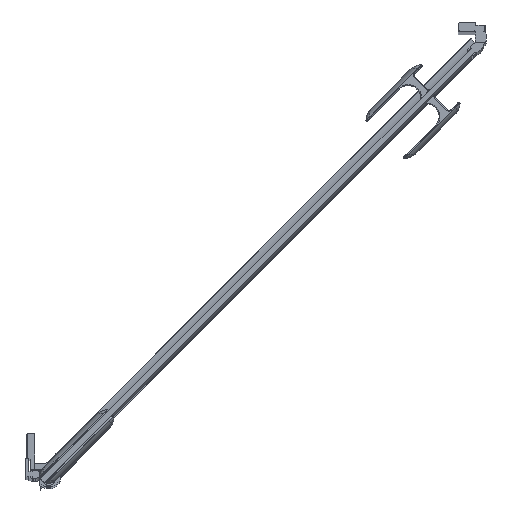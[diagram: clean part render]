
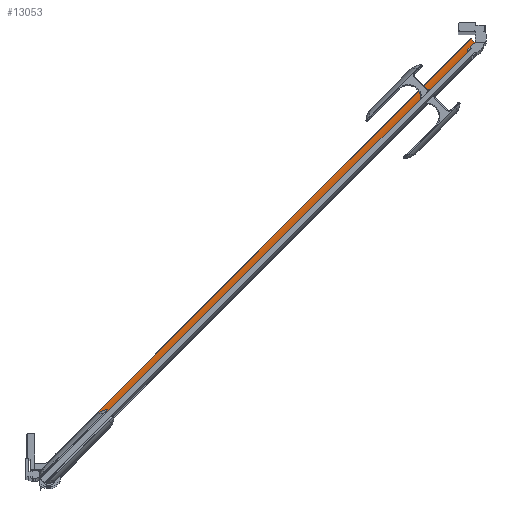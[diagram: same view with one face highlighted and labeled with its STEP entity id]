
A CAD part, top view. The second image highlights one B-rep face of the part: STEP entity #13053.
In plain terms, the highlighted cylindrical face has radius 16 mm (diameter 32 mm), a partial arc.
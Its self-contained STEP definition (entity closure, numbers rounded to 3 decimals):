
#58=B_SPLINE_CURVE_WITH_KNOTS($,3,(#20912,#20913,#20914,#20915,#20916,#20917),
 .UNSPECIFIED.,.F.,.F.,(4,2,4),(0.968,0.988,1.021),
 .UNSPECIFIED.);
#59=B_SPLINE_CURVE_WITH_KNOTS($,3,(#20992,#20993,#20994,#20995,#20996,#20997),
 .UNSPECIFIED.,.F.,.F.,(4,2,4),(1.137,1.304,1.39),
 .UNSPECIFIED.);
#62=B_SPLINE_CURVE_WITH_KNOTS($,3,(#21206,#21207,#21208,#21209,#21210,#21211,
#21212,#21213,#21214,#21215,#21216,#21217,#21218,#21219),.UNSPECIFIED.,
 .F.,.F.,(4,2,2,2,2,2,4),(-1.04,-0.923,-0.745,
-0.555,-0.364,-0.182,-0.021),
 .UNSPECIFIED.);
#396=CYLINDRICAL_SURFACE($,#14012,16.);
#1533=LINE($,#21293,#2831);
#1534=LINE($,#21297,#2832);
#1535=LINE($,#21299,#2833);
#1536=LINE($,#21301,#2834);
#1537=LINE($,#21302,#2835);
#2831=VECTOR($,#16895,687.884);
#2832=VECTOR($,#16898,681.289);
#2833=VECTOR($,#16899,1.691);
#2834=VECTOR($,#16900,3.774);
#2835=VECTOR($,#16901,3.251);
#3941=FACE_OUTER_BOUND($,#4655,.T.);
#4655=EDGE_LOOP($,(#10828,#10829,#10830,#10831,#10832,#10833,#10834,#10835,
#10836,#10837));
#5087=CIRCLE($,#13958,16.);
#5110=CIRCLE($,#14013,16.);
#6050=VERTEX_POINT($,#20910);
#6051=VERTEX_POINT($,#20911);
#6075=VERTEX_POINT($,#20991);
#6099=VERTEX_POINT($,#21075);
#6147=VERTEX_POINT($,#21203);
#6148=VERTEX_POINT($,#21205);
#6159=VERTEX_POINT($,#21294);
#6160=VERTEX_POINT($,#21296);
#6161=VERTEX_POINT($,#21298);
#6162=VERTEX_POINT($,#21300);
#7622=EDGE_CURVE($,#6050,#6051,#58,.T.);
#7660=EDGE_CURVE($,#6051,#6075,#59,.T.);
#7693=EDGE_CURVE($,#6075,#6099,#5087,.T.);
#7757=EDGE_CURVE($,#6148,#6147,#62,.T.);
#7783=EDGE_CURVE($,#6148,#6099,#1533,.T.);
#7784=EDGE_CURVE($,#6147,#6159,#5110,.T.);
#7785=EDGE_CURVE($,#6159,#6160,#1534,.T.);
#7786=EDGE_CURVE($,#6160,#6161,#1535,.T.);
#7787=EDGE_CURVE($,#6161,#6162,#1536,.T.);
#7788=EDGE_CURVE($,#6162,#6050,#1537,.T.);
#10828=ORIENTED_EDGE($,*,*,#7660,.T.);
#10829=ORIENTED_EDGE($,*,*,#7693,.T.);
#10830=ORIENTED_EDGE($,*,*,#7783,.F.);
#10831=ORIENTED_EDGE($,*,*,#7757,.T.);
#10832=ORIENTED_EDGE($,*,*,#7784,.T.);
#10833=ORIENTED_EDGE($,*,*,#7785,.T.);
#10834=ORIENTED_EDGE($,*,*,#7786,.T.);
#10835=ORIENTED_EDGE($,*,*,#7787,.T.);
#10836=ORIENTED_EDGE($,*,*,#7788,.T.);
#10837=ORIENTED_EDGE($,*,*,#7622,.T.);
#13053=ADVANCED_FACE($,(#3941),#396,.F.);
#13958=AXIS2_PLACEMENT_3D($,#21077,#16720,#16721);
#14012=AXIS2_PLACEMENT_3D($,#21292,#16893,#16894);
#14013=AXIS2_PLACEMENT_3D($,#21295,#16896,#16897);
#16720=DIRECTION('center_axis',(0.707,0.707,0.));
#16721=DIRECTION('ref_axis',(-0.528,0.528,0.665));
#16893=DIRECTION('center_axis',(0.707,0.707,0.));
#16894=DIRECTION('ref_axis',(-0.528,0.528,0.665));
#16895=DIRECTION($,(0.707,0.707,0.));
#16896=DIRECTION('center_axis',(-0.707,-0.707,0.));
#16897=DIRECTION('ref_axis',(-0.528,0.528,0.665));
#16898=DIRECTION($,(0.707,0.707,0.));
#16899=DIRECTION($,(0.707,0.707,0.));
#16900=DIRECTION($,(0.707,0.707,0.));
#16901=DIRECTION($,(0.707,0.707,0.));
#20910=CARTESIAN_POINT('',(1320.673,373.816,-395.056));
#20911=CARTESIAN_POINT('',(1320.524,374.187,-395.455));
#20912=CARTESIAN_POINT('Ctrl Pts',(1320.673,373.816,-395.056));
#20913=CARTESIAN_POINT('Ctrl Pts',(1320.649,373.858,-395.109));
#20914=CARTESIAN_POINT('Ctrl Pts',(1320.626,373.903,-395.162));
#20915=CARTESIAN_POINT('Ctrl Pts',(1320.572,374.024,-395.297));
#20916=CARTESIAN_POINT('Ctrl Pts',(1320.545,374.104,-395.378));
#20917=CARTESIAN_POINT('Ctrl Pts',(1320.524,374.187,-395.455));
#20991=CARTESIAN_POINT('',(1320.123,376.182,-396.996));
#20992=CARTESIAN_POINT('Ctrl Pts',(1320.524,374.187,-395.455));
#20993=CARTESIAN_POINT('Ctrl Pts',(1320.42,374.594,-395.835));
#20994=CARTESIAN_POINT('Ctrl Pts',(1320.325,375.024,-396.187));
#20995=CARTESIAN_POINT('Ctrl Pts',(1320.2,375.696,-396.676));
#20996=CARTESIAN_POINT('Ctrl Pts',(1320.16,375.934,-396.838));
#20997=CARTESIAN_POINT('Ctrl Pts',(1320.123,376.182,-396.996));
#21075=CARTESIAN_POINT('',(1315.497,380.808,-400.067));
#21077=CARTESIAN_POINT('Origin',(1313.128,383.177,-384.421));
#21203=CARTESIAN_POINT('',(831.836,-113.161,-396.372));
#21205=CARTESIAN_POINT('',(829.089,-105.599,-400.067));
#21206=CARTESIAN_POINT('Ctrl Pts',(829.089,-105.599,-400.067));
#21207=CARTESIAN_POINT('Ctrl Pts',(829.482,-105.653,-399.999));
#21208=CARTESIAN_POINT('Ctrl Pts',(829.874,-105.76,-399.913));
#21209=CARTESIAN_POINT('Ctrl Pts',(830.801,-106.151,-399.647));
#21210=CARTESIAN_POINT('Ctrl Pts',(831.3,-106.501,-399.439));
#21211=CARTESIAN_POINT('Ctrl Pts',(832.103,-107.304,-398.971));
#21212=CARTESIAN_POINT('Ctrl Pts',(832.451,-107.821,-398.674));
#21213=CARTESIAN_POINT('Ctrl Pts',(832.908,-108.936,-398.048));
#21214=CARTESIAN_POINT('Ctrl Pts',(833.019,-109.535,-397.719));
#21215=CARTESIAN_POINT('Ctrl Pts',(833.019,-110.643,-397.158));
#21216=CARTESIAN_POINT('Ctrl Pts',(832.917,-111.236,-396.882));
#21217=CARTESIAN_POINT('Ctrl Pts',(832.493,-112.291,-396.507));
#21218=CARTESIAN_POINT('Ctrl Pts',(832.198,-112.763,-396.394));
#21219=CARTESIAN_POINT('Ctrl Pts',(831.836,-113.161,-396.372));
#21292=CARTESIAN_POINT('Origin',(824.313,-105.638,-384.421));
#21293=CARTESIAN_POINT($,(826.681,-108.007,-400.067));
#21294=CARTESIAN_POINT('',(832.766,-114.092,-395.056));
#21295=CARTESIAN_POINT('Origin',(824.313,-105.638,-384.421));
#21296=CARTESIAN_POINT('',(1314.51,367.653,-395.056));
#21297=CARTESIAN_POINT($,(832.766,-114.092,-395.056));
#21298=CARTESIAN_POINT('',(1315.706,368.848,-395.056));
#21299=CARTESIAN_POINT($,(832.766,-114.092,-395.056));
#21300=CARTESIAN_POINT('',(1318.374,371.517,-395.056));
#21301=CARTESIAN_POINT($,(832.766,-114.092,-395.056));
#21302=CARTESIAN_POINT($,(832.766,-114.092,-395.056));
